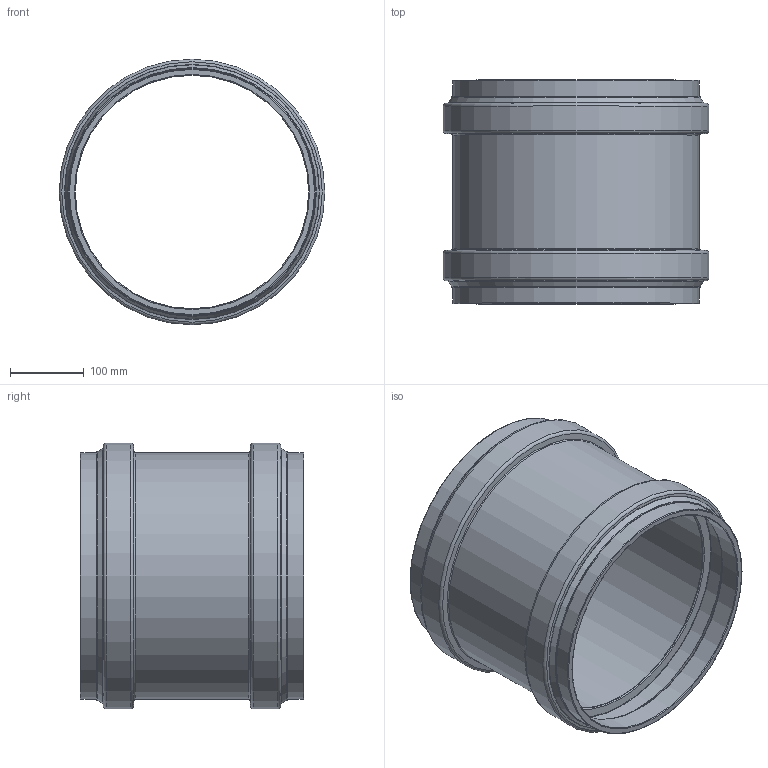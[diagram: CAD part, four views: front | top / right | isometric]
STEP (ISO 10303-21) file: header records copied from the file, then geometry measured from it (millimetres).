
FILE_DESCRIPTION(/* description */ (''),/* implementation_level */ '2;1');
FILE_NAME(/* name */ '778800z.stp',/* time_stamp */ '2026-03-04T13:38:47+01:00',/* author */ ('corinna'),/* organization */ (''),/* preprocessor_version */ 'ST-DEVELOPER v20',/* originating_system */ 'Autodesk Inventor 2024',/* authorisation */ '');
FILE_SCHEMA (('AUTOMOTIVE_DESIGN { 1 0 10303 214 3 1 1 }'));
Length unit declared in the file: millimetre
Products named in the file (1): 778800z
Bounding box: 360.8 x 304 x 360.8 mm (x, y, z)
Volume: 3164712.8 mm3; surface area: 727996 mm2
Topology: 1 solids, 1 shells, 60 faces, 168 edges, 112 vertices
Faces by surface type: torus 28, cone 16, cylinder 12, plane 4
Full cylindrical faces by diameter (mm): 317.1 x1, 317.5 x4, 334.7 x1, 335.1 x2, 343.2 x2, 360.8 x2
Entity records: 2079 total; most frequent: DIRECTION 430, CARTESIAN_POINT 341, ORIENTED_EDGE 336, AXIS2_PLACEMENT_3D 201, EDGE_CURVE 168, CIRCLE 140, VERTEX_POINT 112, EDGE_LOOP 64
